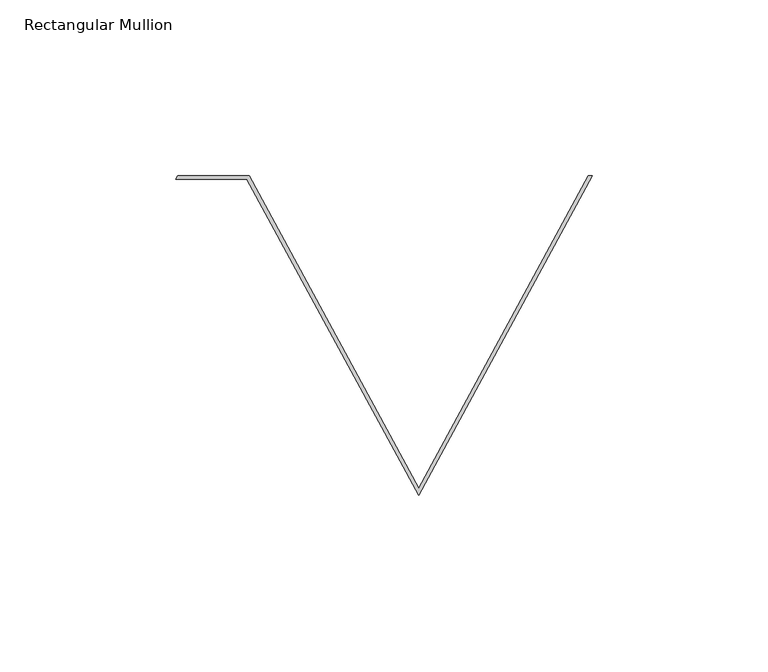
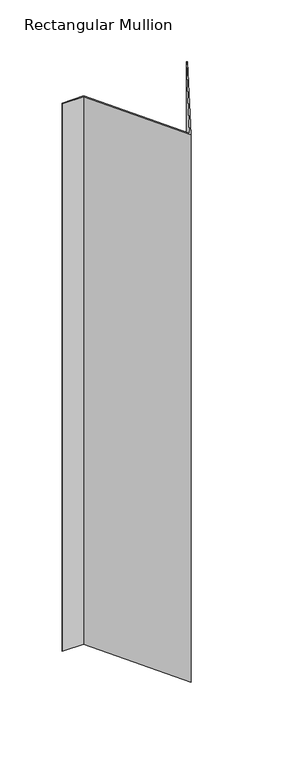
"""IFC4 building model written with IfcOpenShell, lengths in millimetres: member geometry, Rectangular Mullion : CD_NINELINE_Pleat Start Intermediate."""

from ifc_helpers import new_model, si_unit, frame, origin, place, context, project, spatial, polyline, outline, extrude, source, transform, mapped, element, save


def rectangular_mullion_534bf3d0(model_context):
    return source(origin(), model_context, "Body", "SweptSolid", [
        extrude(outline(polyline([(0.4089599, 0.0), (20.7310548, 0.0), (68.9999476, -88.9018164), (117.2688403, 0.0), (118.4089687, 0.0), (69.0, -91.0), (20.133987, -1.0), (-0.1339862, -1.0), (0.4089599, 0.0)])), frame((0.0, 0.0, -543.3484175), z_axis=(0.0, 0.0, 1.0), x_axis=(1.0, 0.0, 0.0)), (0.0, 0.0, 1.0), 543.3484175),
    ])


if __name__ == "__main__":
    model = new_model("IFC4")
    model_context = context("Model", 3, world=origin())
    ifc_project = project(units=[si_unit("LENGTHUNIT", "METRE", prefix="MILLI")], contexts=[model_context])
    site = spatial("IfcSite", under=ifc_project)
    building = spatial("IfcBuilding", under=site)
    placement = place(None, origin())
    rectangular_mullion_shape = rectangular_mullion_534bf3d0(model_context)
    element("IfcMember", 1, ObjectType="Rectangular Mullion : CD_NINELINE_Pleat Start Intermediate", at=placement, inside=building, context=model_context, shape_type="MappedRepresentation", body=[
        mapped(rectangular_mullion_shape, transform((0.0, 0.0, 0.0), x_axis=(1.0, 0.0, 0.0), y_axis=(0.0, 1.0, 0.0), z_axis=(0.0, 0.0, 1.0))),
    ])
    save(model, "model.ifc")
